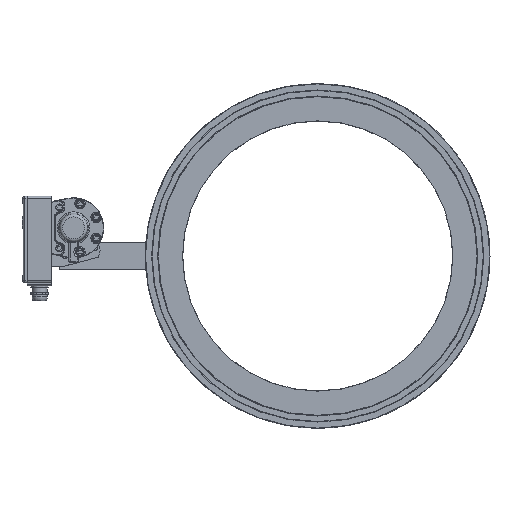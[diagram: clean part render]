
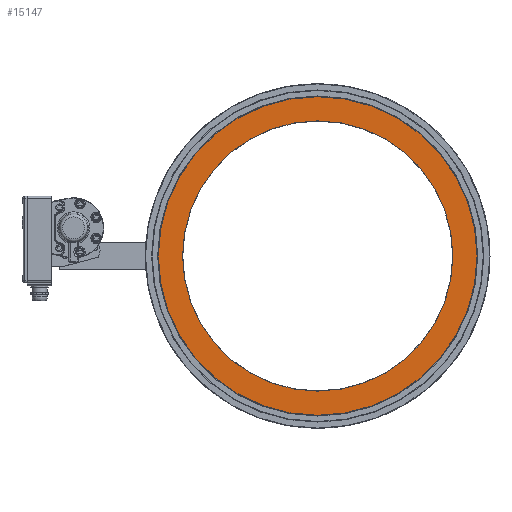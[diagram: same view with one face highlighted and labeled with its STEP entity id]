
A CAD part, top view. The second image highlights one B-rep face of the part: STEP entity #15147.
In plain terms, the highlighted planar face has unit normal (0, 0, 1).
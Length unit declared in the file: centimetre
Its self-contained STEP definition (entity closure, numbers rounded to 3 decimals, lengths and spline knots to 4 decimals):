
#4347=PLANE('',#16313);
#5148=VERTEX_POINT('',#30132);
#5149=VERTEX_POINT('',#30134);
#6340=CIRCLE('',#16352,23.025);
#6341=CIRCLE('',#16353,19.525);
#7287=EDGE_CURVE('',#5148,#5148,#6340,.T.);
#7288=EDGE_CURVE('',#5149,#5149,#6341,.T.);
#10035=ORIENTED_EDGE('',*,*,#7288,.F.);
#10036=ORIENTED_EDGE('',*,*,#7287,.F.);
#12981=EDGE_LOOP('',(#10035));
#12982=EDGE_LOOP('',(#10036));
#14139=FACE_BOUND('',#12981,.T.);
#14140=FACE_BOUND('',#12982,.T.);
#15147=ADVANCED_FACE('',(#14139,#14140),#4347,.F.);
#16313=AXIS2_PLACEMENT_3D('',#30050,#18338,$);
#16352=AXIS2_PLACEMENT_3D('',#30131,#18423,#18424);
#16353=AXIS2_PLACEMENT_3D('',#30133,#18425,#18426);
#18338=DIRECTION('',(0.,0.,-1.));
#18423=DIRECTION('',(0.,0.,-1.));
#18424=DIRECTION('',(-23.025,0.,0.));
#18425=DIRECTION('',(0.,0.,1.));
#18426=DIRECTION('',(19.525,0.,0.));
#30050=CARTESIAN_POINT('',(34.1878,-2.8808,-5.5525));
#30131=CARTESIAN_POINT('',(34.1878,-2.8808,-5.5525));
#30132=CARTESIAN_POINT('',(57.2128,-2.8808,-5.5525));
#30133=CARTESIAN_POINT('',(34.1878,-2.8808,-5.5525));
#30134=CARTESIAN_POINT('',(14.6628,-2.8808,-5.5525));
